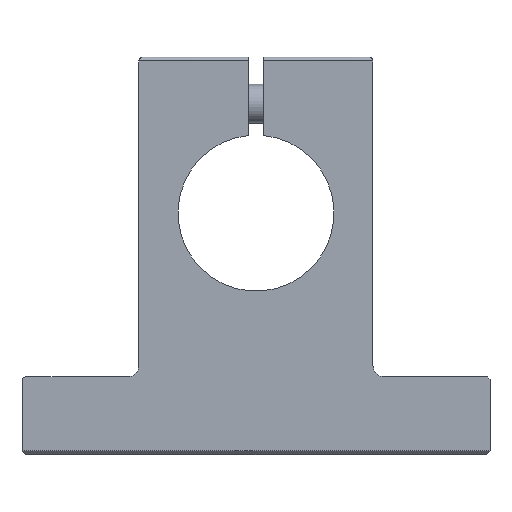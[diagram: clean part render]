
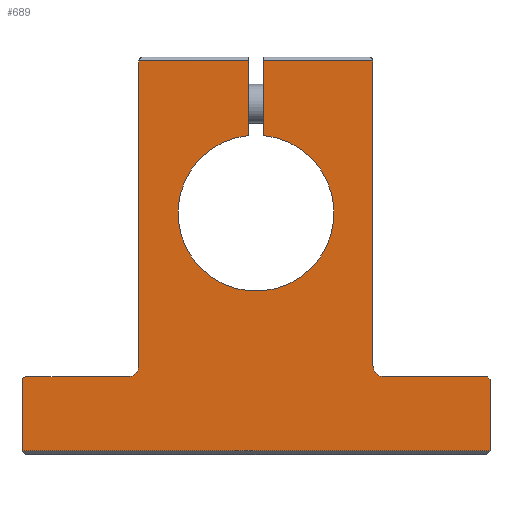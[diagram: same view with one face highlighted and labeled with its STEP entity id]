
A CAD part, left-side view. The second image highlights one B-rep face of the part: STEP entity #689.
In plain terms, the highlighted planar face has unit normal (-1, 0, 0).
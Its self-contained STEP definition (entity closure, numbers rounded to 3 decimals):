
#441=CARTESIAN_POINT('',(0.0,1.,19.5));
#442=VERTEX_POINT('',#441);
#460=CARTESIAN_POINT('',(0.0,15.0,19.5));
#461=VERTEX_POINT('',#460);
#469=CARTESIAN_POINT('',(0.0,15.0,19.5));
#470=DIRECTION('',(0.0,-1.0,0.0));
#471=VECTOR('',#470,14.);
#472=LINE('',#469,#471);
#473=EDGE_CURVE('',#461,#442,#472,.T.);
#559=CARTESIAN_POINT('',(0.0,0.,-7.153));
#560=DIRECTION('',(1.0,0.0,0.0));
#561=DIRECTION('',(0.0,0.0,-1.0));
#562=AXIS2_PLACEMENT_3D('',#559,#560,#561);
#563=PLANE('',#562);
#564=ORIENTED_EDGE('',*,*,#473,.F.);
#565=CARTESIAN_POINT('',(0.0,15.0,-19.5));
#566=VERTEX_POINT('',#565);
#567=CARTESIAN_POINT('',(0.0,15.0,-19.5));
#568=DIRECTION('',(0.0,0.0,1.0));
#569=VECTOR('',#568,39.);
#570=LINE('',#567,#569);
#571=EDGE_CURVE('',#566,#461,#570,.T.);
#572=ORIENTED_EDGE('',*,*,#571,.F.);
#573=CARTESIAN_POINT('',(0.0,16.5,-21.));
#574=VERTEX_POINT('',#573);
#575=CARTESIAN_POINT('',(0.0,16.5,-19.5));
#576=DIRECTION('',(-1.0,0.0,0.0));
#577=DIRECTION('',(0.0,-0.707,-0.707));
#578=AXIS2_PLACEMENT_3D('',#575,#576,#577);
#579=CIRCLE('',#578,1.5);
#580=EDGE_CURVE('',#574,#566,#579,.T.);
#581=ORIENTED_EDGE('',*,*,#580,.F.);
#582=CARTESIAN_POINT('',(0.0,29.5,-21.));
#583=VERTEX_POINT('',#582);
#584=CARTESIAN_POINT('',(0.0,29.5,-21.));
#585=DIRECTION('',(0.0,-1.0,0.0));
#586=VECTOR('',#585,13.0);
#587=LINE('',#584,#586);
#588=EDGE_CURVE('',#583,#574,#587,.T.);
#589=ORIENTED_EDGE('',*,*,#588,.F.);
#590=CARTESIAN_POINT('',(0.0,30.0,-21.5));
#591=VERTEX_POINT('',#590);
#592=CARTESIAN_POINT('',(0.0,29.5,-21.5));
#593=DIRECTION('',(1.,0.0,0.0));
#594=DIRECTION('',(0.0,0.707,0.707));
#595=AXIS2_PLACEMENT_3D('',#592,#593,#594);
#596=CIRCLE('',#595,0.5);
#597=EDGE_CURVE('',#591,#583,#596,.T.);
#598=ORIENTED_EDGE('',*,*,#597,.F.);
#599=CARTESIAN_POINT('',(0.0,30.,-30.5));
#600=VERTEX_POINT('',#599);
#601=CARTESIAN_POINT('',(0.0,30.,-30.5));
#602=DIRECTION('',(0.0,0.0,1.0));
#603=VECTOR('',#602,9.0);
#604=LINE('',#601,#603);
#605=EDGE_CURVE('',#600,#591,#604,.T.);
#606=ORIENTED_EDGE('',*,*,#605,.F.);
#607=CARTESIAN_POINT('',(0.0,-30.,-30.5));
#608=VERTEX_POINT('',#607);
#609=CARTESIAN_POINT('',(0.0,-30.,-30.5));
#610=DIRECTION('',(0.0,1.0,0.0));
#611=VECTOR('',#610,60.);
#612=LINE('',#609,#611);
#613=EDGE_CURVE('',#608,#600,#612,.T.);
#614=ORIENTED_EDGE('',*,*,#613,.F.);
#615=CARTESIAN_POINT('',(0.0,-30.0,-21.3));
#616=VERTEX_POINT('',#615);
#617=CARTESIAN_POINT('',(0.0,-30.0,-21.3));
#618=DIRECTION('',(0.0,0.0,-1.0));
#619=VECTOR('',#618,9.2);
#620=LINE('',#617,#619);
#621=EDGE_CURVE('',#616,#608,#620,.T.);
#622=ORIENTED_EDGE('',*,*,#621,.F.);
#623=CARTESIAN_POINT('',(0.0,-29.7,-21.));
#624=VERTEX_POINT('',#623);
#625=CARTESIAN_POINT('',(0.0,-29.7,-21.));
#626=DIRECTION('',(0.0,-0.707,-0.707));
#627=VECTOR('',#626,0.424);
#628=LINE('',#625,#627);
#629=EDGE_CURVE('',#624,#616,#628,.T.);
#630=ORIENTED_EDGE('',*,*,#629,.F.);
#631=CARTESIAN_POINT('',(0.0,-16.5,-21.));
#632=VERTEX_POINT('',#631);
#633=CARTESIAN_POINT('',(0.0,-16.5,-21.));
#634=DIRECTION('',(0.0,-1.0,0.0));
#635=VECTOR('',#634,13.2);
#636=LINE('',#633,#635);
#637=EDGE_CURVE('',#632,#624,#636,.T.);
#638=ORIENTED_EDGE('',*,*,#637,.F.);
#639=CARTESIAN_POINT('',(0.0,-15.0,-19.5));
#640=VERTEX_POINT('',#639);
#641=CARTESIAN_POINT('',(0.0,-16.5,-19.5));
#642=DIRECTION('',(-1.0,0.0,0.0));
#643=DIRECTION('',(0.0,0.707,-0.707));
#644=AXIS2_PLACEMENT_3D('',#641,#642,#643);
#645=CIRCLE('',#644,1.5);
#646=EDGE_CURVE('',#640,#632,#645,.T.);
#647=ORIENTED_EDGE('',*,*,#646,.F.);
#648=CARTESIAN_POINT('',(0.0,-15.0,19.5));
#649=VERTEX_POINT('',#648);
#650=CARTESIAN_POINT('',(0.0,-15.0,19.5));
#651=DIRECTION('',(0.0,0.0,-1.0));
#652=VECTOR('',#651,39.);
#653=LINE('',#650,#652);
#654=EDGE_CURVE('',#649,#640,#653,.T.);
#655=ORIENTED_EDGE('',*,*,#654,.F.);
#656=CARTESIAN_POINT('',(0.0,-1.,19.5));
#657=VERTEX_POINT('',#656);
#658=CARTESIAN_POINT('',(0.0,-1.,19.5));
#659=DIRECTION('',(0.0,-1.0,0.0));
#660=VECTOR('',#659,14.);
#661=LINE('',#658,#660);
#662=EDGE_CURVE('',#657,#649,#661,.T.);
#663=ORIENTED_EDGE('',*,*,#662,.F.);
#664=CARTESIAN_POINT('',(0.0,-1.,9.95));
#665=VERTEX_POINT('',#664);
#666=CARTESIAN_POINT('',(0.0,-1.,9.95));
#667=DIRECTION('',(0.0,0.0,1.0));
#668=VECTOR('',#667,9.55);
#669=LINE('',#666,#668);
#670=EDGE_CURVE('',#665,#657,#669,.T.);
#671=ORIENTED_EDGE('',*,*,#670,.F.);
#672=CARTESIAN_POINT('',(0.0,1.,9.95));
#673=VERTEX_POINT('',#672);
#674=CARTESIAN_POINT('',(0.0,0.0,0.0));
#675=DIRECTION('',(-1.0,0.0,0.0));
#676=DIRECTION('',(0.0,-1.0,0.0));
#677=AXIS2_PLACEMENT_3D('',#674,#675,#676);
#678=CIRCLE('',#677,10.0);
#679=EDGE_CURVE('',#673,#665,#678,.T.);
#680=ORIENTED_EDGE('',*,*,#679,.F.);
#681=CARTESIAN_POINT('',(0.0,1.,19.5));
#682=DIRECTION('',(0.0,0.0,-1.0));
#683=VECTOR('',#682,9.55);
#684=LINE('',#681,#683);
#685=EDGE_CURVE('',#442,#673,#684,.T.);
#686=ORIENTED_EDGE('',*,*,#685,.F.);
#687=EDGE_LOOP('',(#564,#572,#581,#589,#598,#606,#614,#622,#630,#638,#647,#655,#663,#671,#680,#686));
#688=FACE_OUTER_BOUND('',#687,.T.);
#689=ADVANCED_FACE('',(#688),#563,.F.);
